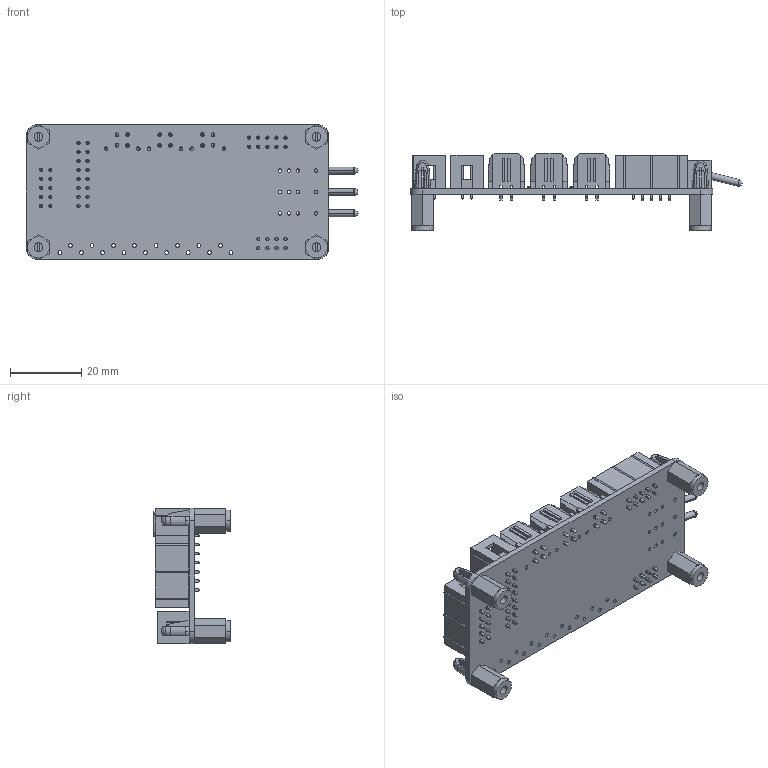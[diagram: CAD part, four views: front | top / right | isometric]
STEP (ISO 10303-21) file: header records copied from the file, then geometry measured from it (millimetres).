
FILE_DESCRIPTION (( 'STEP AP214' ), '1' );
FILE_NAME ('NCxxxMP-Series evaluation tool 01xx.STEP', '2016-07-18T12:44:16', ( '' ), ( '' ), 'SwSTEP 2.0', 'SolidWorks 2014', '' );
FILE_SCHEMA (( 'AUTOMOTIVE_DESIGN' ));
Length unit declared in the file: millimetre
Products named in the file (3): Spacer PCB-Nut M3x10mm Nylon; NCxxxMP evaluation tool B02; NCxxxMP-Series evaluation tool 01xx
Assembly tree (5 placements, depth 2):
  NCxxxMP-Series evaluation tool 01xx
    NCxxxMP evaluation tool B02
    Spacer PCB-Nut M3x10mm Nylon  x4
Bounding box: 93.15 x 21.55 x 38 mm (x, y, z)
Surface area: 17570 mm2 (no closed solid volume)
Topology: 0 solids, 161 shells, 1909 faces, 5949 edges, 4185 vertices
Faces by surface type: plane 1564, cylinder 294, cone 36, bspline 15
Entity records: 82178 total; most frequent: CARTESIAN_POINT 14326, DIRECTION 9553, ORIENTED_EDGE 9005, EDGE_CURVE 5542, LINE 4593, VECTOR 4593, VERTEX_POINT 3930, AXIS2_PLACEMENT_3D 2480
